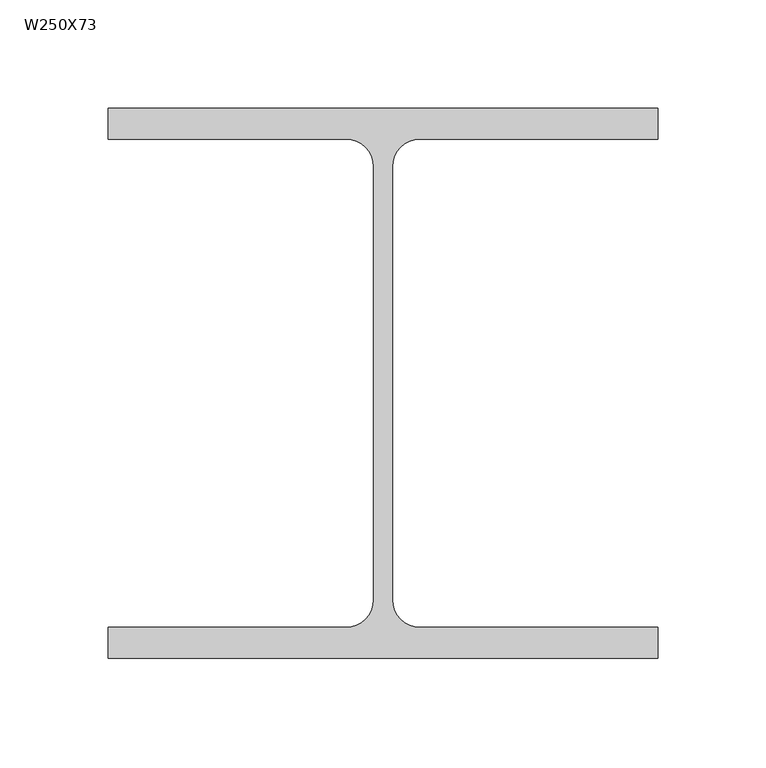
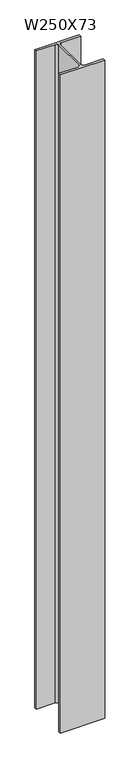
"""IFC4 building model written with IfcOpenShell, lengths in millimetres: column geometry, M_W Формы-Колонна : W250X73."""

from ifc_helpers import new_model, si_unit, point, frame_2d, origin, origin_with_axes, place, context, project, spatial, polyline, circle_curve, trimmed, segment, composite_curve, outline, extrude, source, transform, mapped, element, save


def w250x73_c61b7e31(model_context):
    return source(origin(), model_context, "Body", "SweptSolid", [
        extrude(outline(composite_curve([segment(polyline([(127.0, 127.0), (127.0, 112.8), (17.02, 112.8)]), True, "CONTINUOUS"), segment(trimmed(circle_curve(frame_2d((17.02, 100.1)), 12.7), [point((17.02, 112.8))], [point((4.32, 100.1))], True, "CARTESIAN"), True, "CONTINUOUS"), segment(polyline([(4.32, 100.1), (4.32, -100.1)]), True, "CONTINUOUS"), segment(trimmed(circle_curve(frame_2d((17.02, -100.1)), 12.7), [point((4.32, -100.1))], [point((17.02, -112.8))], True, "CARTESIAN"), True, "CONTINUOUS"), segment(polyline([(17.02, -112.8), (127.0, -112.8), (127.0, -127.0), (-127.0, -127.0), (-127.0, -112.8), (-17.02, -112.8)]), True, "CONTINUOUS"), segment(trimmed(circle_curve(frame_2d((-17.02, -100.1)), 12.7), [point((-17.02, -112.8))], [point((-4.32, -100.1))], True, "CARTESIAN"), True, "CONTINUOUS"), segment(polyline([(-4.32, -100.1), (-4.32, 100.1)]), True, "CONTINUOUS"), segment(trimmed(circle_curve(frame_2d((-17.02, 100.1)), 12.7), [point((-4.32, 100.1))], [point((-17.02, 112.8))], True, "CARTESIAN"), True, "CONTINUOUS"), segment(polyline([(-17.02, 112.8), (-127.0, 112.8), (-127.0, 127.0), (127.0, 127.0)]), True, "CONTINUOUS")], self_intersect=False)), origin_with_axes(), (0.0, 0.0, 1.0), 4000.0),
    ])


if __name__ == "__main__":
    model = new_model("IFC4")
    model_context = context("Model", 3, world=origin())
    ifc_project = project(units=[si_unit("LENGTHUNIT", "METRE", prefix="MILLI")], contexts=[model_context])
    site = spatial("IfcSite", under=ifc_project)
    building = spatial("IfcBuilding", under=site)
    placement = place(None, origin())
    w250x73_shape = w250x73_c61b7e31(model_context)
    element("IfcColumn", 1, ObjectType="M_W Формы-Колонна : W250X73", at=placement, inside=building, context=model_context, shape_type="MappedRepresentation", body=[
        mapped(w250x73_shape, transform((0.0, 0.0, 0.0), x_axis=(1.0, 0.0, 0.0), y_axis=(0.0, 1.0, 0.0), z_axis=(0.0, 0.0, 1.0))),
    ])
    save(model, "model.ifc")
